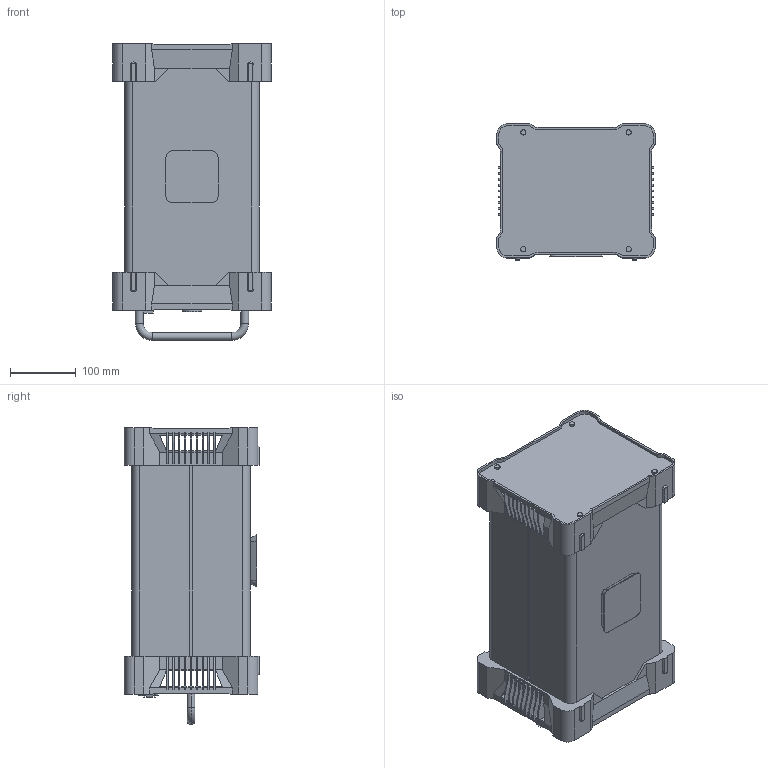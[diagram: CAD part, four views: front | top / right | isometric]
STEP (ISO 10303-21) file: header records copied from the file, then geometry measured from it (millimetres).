
FILE_DESCRIPTION (( 'STEP AP214' ), '1' );
FILE_NAME ('S360-PSU_3D.STEP', '2017-11-15T12:02:19', ( '' ), ( '' ), 'SwSTEP 2.0', 'SolidWorks 2016', '' );
FILE_SCHEMA (( 'AUTOMOTIVE_DESIGN' ));
Length unit declared in the file: millimetre
Products named in the file (1): S360-PSU_3D
Bounding box: 240 x 206 x 451 mm (x, y, z)
Volume: 14306627.9 mm3; surface area: 581832 mm2
Topology: 1 solids, 1 shells, 732 faces, 2332 edges, 1546 vertices
Faces by surface type: plane 643, cylinder 67, cone 18, torus 4
Entity records: 26835 total; most frequent: ORIENTED_EDGE 4664, CARTESIAN_POINT 4611, DIRECTION 3966, EDGE_CURVE 2332, LINE 2164, VECTOR 2164, VERTEX_POINT 1546, AXIS2_PLACEMENT_3D 901
